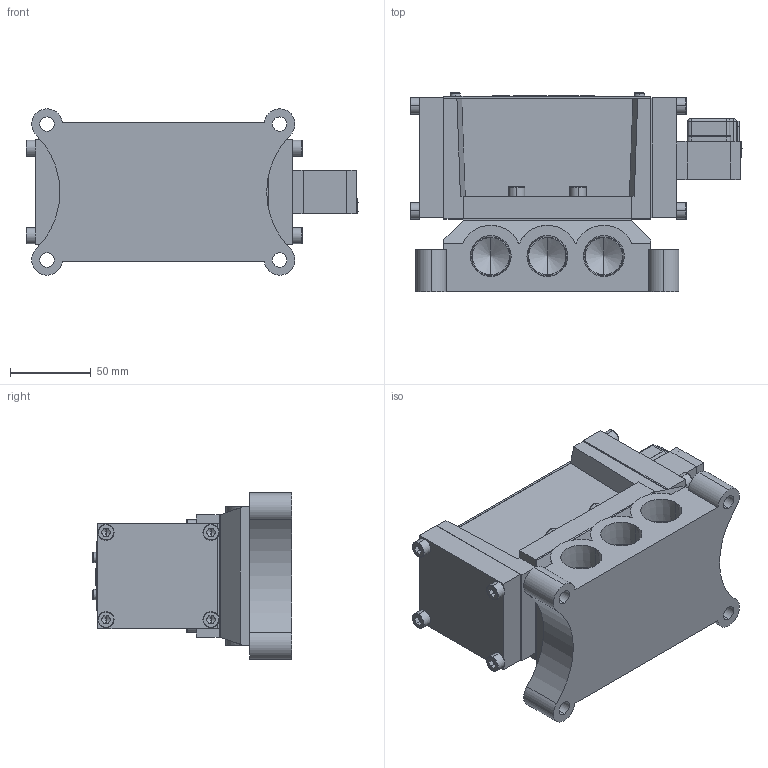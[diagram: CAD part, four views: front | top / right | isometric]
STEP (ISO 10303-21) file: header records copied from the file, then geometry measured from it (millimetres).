
FILE_DESCRIPTION (( 'STEP AP203' ), '1' );
FILE_NAME ('PMS2415#-06-#G#.STEP', '2016-03-09T08:54:28', ( 'Sam Lin' ), ( '' ), 'SwSTEP 2.0', 'SolidWorks 2013', '' );
FILE_SCHEMA (( 'CONFIG_CONTROL_DESIGN' ));
Length unit declared in the file: metre
Products named in the file (16): ISO 4762 M6 x 12; PMS2415-7; PMS2415-1; PMS2415-6-06; PMS2415-2; PM06-G1; PM06-C1; PMS2415-3; PMS2415#-06-#G#; PM06-C4; PMS2415-4; PM06-C6-M3; PM15-MARK-24; PM06-C5; PMS2415-5; PM06-C3-M4
Assembly tree (30 placements, depth 2):
  PMS2415#-06-#G#
    PMS2415-1
    PMS2415-2
    PMS2415-3
    PMS2415-4  x2
    PM15-MARK-24
    PMS2415-5
    PM06-C3-M4  x3
    ISO 4762 M6 x 12  x12
    PMS2415-7
    PMS2415-6-06
    PM06-C1
    PM06-C4
    PM06-C6-M3  x2
    PM06-C5
    PM06-G1
Bounding box: 205.5 x 123.55 x 102.97 mm (x, y, z)
Volume: 1138966.6 mm3; surface area: 196194.4 mm2
Topology: 36 solids, 36 shells, 863 faces, 2025 edges, 1234 vertices
Faces by surface type: plane 463, cylinder 185, cone 113, bspline 98, torus 4
Entity records: 16503 total; most frequent: CARTESIAN_POINT 3830, DIRECTION 2215, ORIENTED_EDGE 2162, EDGE_CURVE 1081, AXIS2_PLACEMENT_3D 785, VERTEX_POINT 694, VECTOR 645, LINE 645
